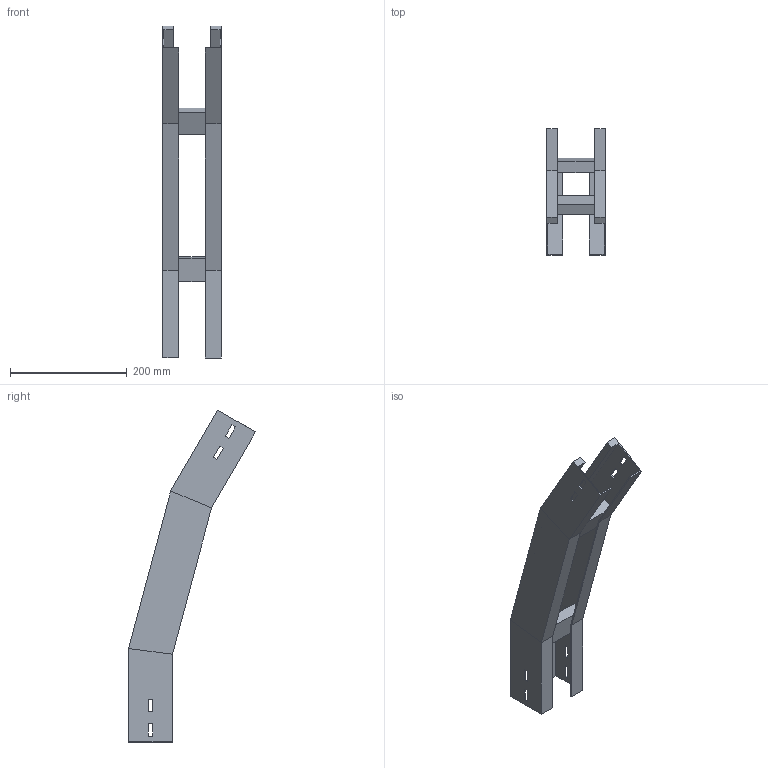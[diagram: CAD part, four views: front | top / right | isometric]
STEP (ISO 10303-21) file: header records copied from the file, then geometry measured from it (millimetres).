
FILE_DESCRIPTION (( 'STEP AP214' ), '1' );
FILE_NAME ('35B5C100.step', '2025-02-21T14:49:05', ( '' ), ( '' ), 'SwSTEP 2.0', 'SolidWorks 2023', '' );
FILE_SCHEMA (( 'AUTOMOTIVE_DESIGN' ));
Length unit declared in the file: millimetre
Products named in the file (3): TRAVERSINO_100; LONGH.DISCESA_30°_H75_R500; 35B5C100
Assembly tree (5 placements, depth 2):
  35B5C100
    LONGH.DISCESA_30°_H75_R500  x2
    TRAVERSINO_100  x3
Bounding box: 100 x 217.03 x 567.58 mm (x, y, z)
Volume: 689002.1 mm3; surface area: 312048.5 mm2
Topology: 5 solids, 5 shells, 102 faces, 244 edges, 152 vertices
Faces by surface type: plane 102
Entity records: 1480 total; most frequent: CARTESIAN_POINT 244, ORIENTED_EDGE 232, DIRECTION 228, EDGE_CURVE 116, VECTOR 116, LINE 116, VERTEX_POINT 72, AXIS2_PLACEMENT_3D 56
